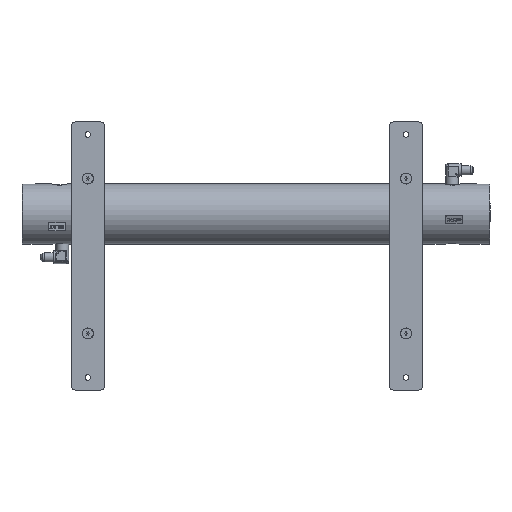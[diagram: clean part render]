
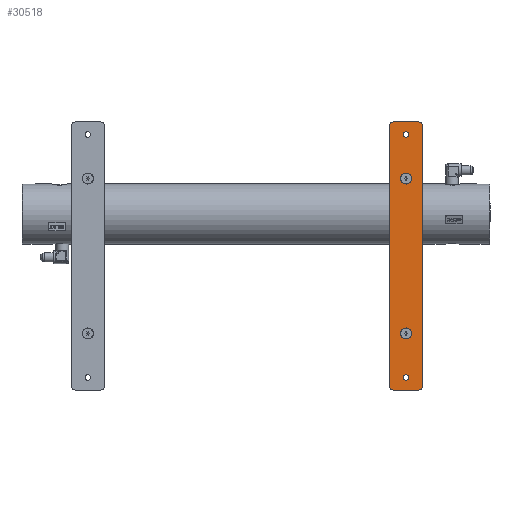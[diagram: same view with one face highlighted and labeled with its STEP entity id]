
A CAD part, left-side view. The second image highlights one B-rep face of the part: STEP entity #30518.
In plain terms, the highlighted planar face has unit normal (-1, 0, 0).
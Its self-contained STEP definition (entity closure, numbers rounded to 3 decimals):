
#2991=LINE('',#64289,#4600);
#2997=LINE('',#64309,#4606);
#3000=LINE('',#64317,#4609);
#3002=LINE('',#64323,#4611);
#4600=VECTOR('',#42462,1.5);
#4606=VECTOR('',#42482,15.5);
#4609=VECTOR('',#42491,15.5);
#4611=VECTOR('',#42499,1.5);
#5613=FACE_BOUND('',#9922,.T.);
#5614=FACE_BOUND('',#9923,.T.);
#5615=FACE_BOUND('',#9924,.T.);
#5616=FACE_BOUND('',#9925,.T.);
#7524=FACE_OUTER_BOUND('',#9921,.T.);
#9921=EDGE_LOOP('',(#25794,#25795,#25796,#25797,#25798,#25799,#25800,#25801));
#9922=EDGE_LOOP('',(#25802));
#9923=EDGE_LOOP('',(#25803));
#9924=EDGE_LOOP('',(#25804));
#9925=EDGE_LOOP('',(#25805));
#11804=CIRCLE('',#34001,0.166);
#11806=CIRCLE('',#34004,0.166);
#11807=CIRCLE('',#34006,0.318);
#11810=CIRCLE('',#34011,0.318);
#11813=CIRCLE('',#34016,0.25);
#11818=CIRCLE('',#34024,0.25);
#11819=CIRCLE('',#34027,0.25);
#11820=CIRCLE('',#34030,0.25);
#14309=VERTEX_POINT('',#64252);
#14311=VERTEX_POINT('',#64257);
#14312=VERTEX_POINT('',#64260);
#14315=VERTEX_POINT('',#64268);
#14318=VERTEX_POINT('',#64276);
#14319=VERTEX_POINT('',#64277);
#14323=VERTEX_POINT('',#64287);
#14329=VERTEX_POINT('',#64303);
#14330=VERTEX_POINT('',#64307);
#14331=VERTEX_POINT('',#64311);
#14332=VERTEX_POINT('',#64312);
#14333=VERTEX_POINT('',#64319);
#18177=EDGE_CURVE('',#14309,#14309,#11804,.T.);
#18179=EDGE_CURVE('',#14311,#14311,#11806,.T.);
#18180=EDGE_CURVE('',#14312,#14312,#11807,.T.);
#18183=EDGE_CURVE('',#14315,#14315,#11810,.T.);
#18186=EDGE_CURVE('',#14318,#14319,#11813,.T.);
#18192=EDGE_CURVE('',#14318,#14323,#2991,.T.);
#18199=EDGE_CURVE('',#14329,#14323,#11818,.T.);
#18202=EDGE_CURVE('',#14329,#14330,#2997,.T.);
#18203=EDGE_CURVE('',#14331,#14332,#11819,.T.);
#18206=EDGE_CURVE('',#14331,#14319,#3000,.T.);
#18207=EDGE_CURVE('',#14333,#14330,#11820,.T.);
#18209=EDGE_CURVE('',#14333,#14332,#3002,.T.);
#25794=ORIENTED_EDGE('',*,*,#18186,.F.);
#25795=ORIENTED_EDGE('',*,*,#18192,.T.);
#25796=ORIENTED_EDGE('',*,*,#18199,.F.);
#25797=ORIENTED_EDGE('',*,*,#18202,.T.);
#25798=ORIENTED_EDGE('',*,*,#18207,.F.);
#25799=ORIENTED_EDGE('',*,*,#18209,.T.);
#25800=ORIENTED_EDGE('',*,*,#18203,.F.);
#25801=ORIENTED_EDGE('',*,*,#18206,.T.);
#25802=ORIENTED_EDGE('',*,*,#18177,.T.);
#25803=ORIENTED_EDGE('',*,*,#18179,.T.);
#25804=ORIENTED_EDGE('',*,*,#18180,.T.);
#25805=ORIENTED_EDGE('',*,*,#18183,.T.);
#26845=PLANE('',#34032);
#30518=ADVANCED_FACE('',(#7524,#5613,#5614,#5615,#5616),#26845,.T.);
#34001=AXIS2_PLACEMENT_3D('',#64253,#42422,#42423);
#34004=AXIS2_PLACEMENT_3D('',#64258,#42428,#42429);
#34006=AXIS2_PLACEMENT_3D('',#64261,#42432,#42433);
#34011=AXIS2_PLACEMENT_3D('',#64269,#42442,#42443);
#34016=AXIS2_PLACEMENT_3D('',#64278,#42452,#42453);
#34024=AXIS2_PLACEMENT_3D('',#64304,#42476,#42477);
#34027=AXIS2_PLACEMENT_3D('',#64313,#42485,#42486);
#34030=AXIS2_PLACEMENT_3D('',#64320,#42494,#42495);
#34032=AXIS2_PLACEMENT_3D('',#64324,#42500,#42501);
#42422=DIRECTION('center_axis',(1.,0.,0.));
#42423=DIRECTION('ref_axis',(0.,1.,0.));
#42428=DIRECTION('center_axis',(1.,0.,0.));
#42429=DIRECTION('ref_axis',(0.,1.,0.));
#42432=DIRECTION('center_axis',(1.,0.,0.));
#42433=DIRECTION('ref_axis',(0.,1.,0.));
#42442=DIRECTION('center_axis',(1.,0.,0.));
#42443=DIRECTION('ref_axis',(0.,1.,0.));
#42452=DIRECTION('center_axis',(1.,0.,0.));
#42453=DIRECTION('ref_axis',(0.,0.707,-0.707));
#42462=DIRECTION('',(0.,-1.,0.));
#42476=DIRECTION('center_axis',(1.,0.,0.));
#42477=DIRECTION('ref_axis',(0.,-0.707,-0.707));
#42482=DIRECTION('',(0.,0.,1.));
#42485=DIRECTION('center_axis',(1.,0.,0.));
#42486=DIRECTION('ref_axis',(0.,0.707,0.707));
#42491=DIRECTION('',(0.,0.,-1.));
#42494=DIRECTION('center_axis',(1.,0.,0.));
#42495=DIRECTION('ref_axis',(0.,-0.707,0.707));
#42499=DIRECTION('',(0.,1.,0.));
#42500=DIRECTION('center_axis',(-1.,0.,0.));
#42501=DIRECTION('ref_axis',(0.,1.,0.));
#64252=CARTESIAN_POINT('',(-2.995,-8.066,4.219));
#64253=CARTESIAN_POINT('Origin',(-2.995,-8.232,4.219));
#64257=CARTESIAN_POINT('',(-2.995,-8.066,18.719));
#64258=CARTESIAN_POINT('Origin',(-2.995,-8.232,18.719));
#64260=CARTESIAN_POINT('',(-2.995,-7.915,6.844));
#64261=CARTESIAN_POINT('Origin',(-2.995,-8.232,6.844));
#64268=CARTESIAN_POINT('',(-2.995,-7.915,16.094));
#64269=CARTESIAN_POINT('Origin',(-2.995,-8.232,16.094));
#64276=CARTESIAN_POINT('',(-2.995,-7.482,3.469));
#64277=CARTESIAN_POINT('',(-2.995,-7.232,3.719));
#64278=CARTESIAN_POINT('Origin',(-2.995,-7.482,3.719));
#64287=CARTESIAN_POINT('',(-2.995,-8.982,3.469));
#64289=CARTESIAN_POINT('',(-2.995,-9.232,3.469));
#64303=CARTESIAN_POINT('',(-2.995,-9.232,3.719));
#64304=CARTESIAN_POINT('Origin',(-2.995,-8.982,3.719));
#64307=CARTESIAN_POINT('',(-2.995,-9.232,19.219));
#64309=CARTESIAN_POINT('',(-2.995,-9.232,19.469));
#64311=CARTESIAN_POINT('',(-2.995,-7.232,19.219));
#64312=CARTESIAN_POINT('',(-2.995,-7.482,19.469));
#64313=CARTESIAN_POINT('Origin',(-2.995,-7.482,19.219));
#64317=CARTESIAN_POINT('',(-2.995,-7.232,3.469));
#64319=CARTESIAN_POINT('',(-2.995,-8.982,19.469));
#64320=CARTESIAN_POINT('Origin',(-2.995,-8.982,19.219));
#64323=CARTESIAN_POINT('',(-2.995,-7.232,19.469));
#64324=CARTESIAN_POINT('Origin',(-2.995,-8.232,11.469));
